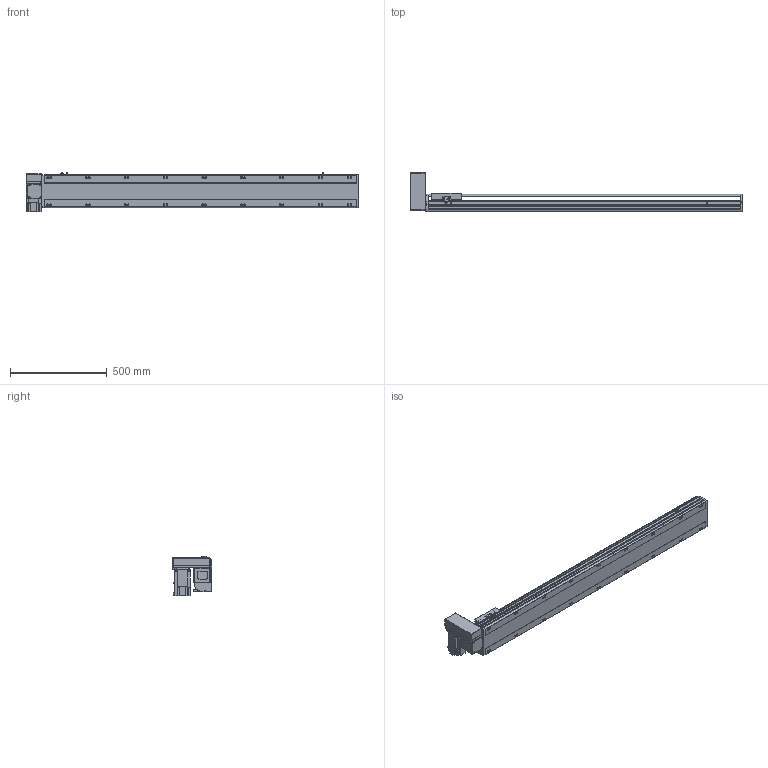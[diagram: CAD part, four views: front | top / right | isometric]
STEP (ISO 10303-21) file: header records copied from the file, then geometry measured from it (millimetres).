
FILE_DESCRIPTION(/* description */ ('STEP AP214'),/* implementation_level */ '2;1');
FILE_NAME(/* name */ 'PBS170-P40-S1350-RU-T75-C1-N(0)',/* time_stamp */ '2022-06-08T07:58:33+02:00',/* author */ ('License CC BY-ND 4.0'),/* organization */ ('CADENAS'),/* preprocessor_version */ 'ST-DEVELOPER v18.102',/* originating_system */ 'PARTsolutions',/* authorisation */ ' ');
FILE_SCHEMA (('AUTOMOTIVE_DESIGN {1 0 10303 214 3 1 1}'));
Length unit declared in the file: millimetre
Products named in the file (7): PBS170-P40-S1350-RU-T75-C1-N(0); PBS170_sensor; PBS170_plant; PBS170_sliser; T75-p1; PBS170T-RU_motors; PBS170-S1350()_body
Assembly tree (8 placements, depth 2):
  PBS170-P40-S1350-RU-T75-C1-N(0)
    PBS170_sensor  x3
    PBS170_plant
    PBS170_sliser
    T75-p1
    PBS170T-RU_motors
    PBS170-S1350()_body
Bounding box: 1713 x 206 x 205.3 mm (x, y, z)
Volume: 13484858.9 mm3; surface area: 1740827.6 mm2
Topology: 8 solids, 8 shells, 1098 faces, 2915 edges, 1900 vertices
Faces by surface type: plane 693, cylinder 347, cone 48, sphere 8, torus 2
Full cylindrical faces by diameter (mm): 3.242 x4, 4 x2, 4.4 x4, 4.5 x6, 4.917 x4, 6 x9, 6.647 x26, 7 x2, 7.5 x4, 8 x8, 8.5 x18, 10 x4, 10.5 x18, 11 x2, 30 x2, 40 x1, 70 x1
Entity records: 31576 total; most frequent: CARTESIAN_POINT 5825, DIRECTION 5370, ORIENTED_EDGE 5088, EDGE_CURVE 2544, AXIS2_PLACEMENT_3D 1867, VERTEX_POINT 1754, LINE 1636, VECTOR 1636
